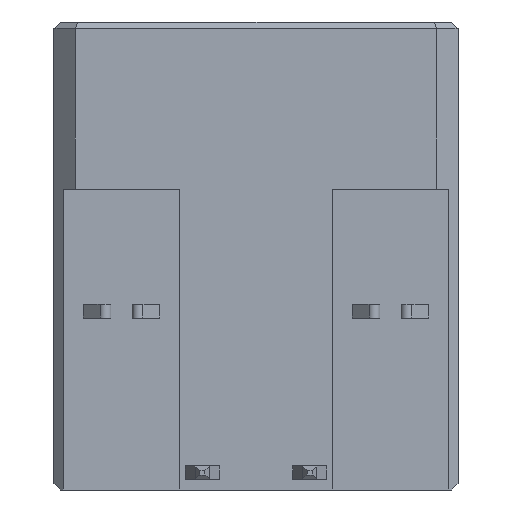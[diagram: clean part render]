
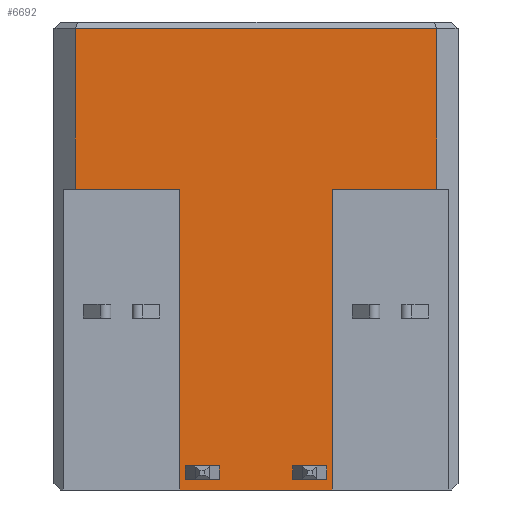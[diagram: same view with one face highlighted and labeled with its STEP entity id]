
A CAD part, front view. The second image highlights one B-rep face of the part: STEP entity #6692.
In plain terms, the highlighted planar face has unit normal (0, -1, 0).
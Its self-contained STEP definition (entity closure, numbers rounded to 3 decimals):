
#6 = VERTEX_POINT ( 'NONE', #611 ) ;
#98 = LINE ( 'NONE', #3549, #8408 ) ;
#246 = CARTESIAN_POINT ( 'NONE',  ( 8.54, -4.5, -22.1 ) ) ;
#251 = EDGE_CURVE ( 'NONE', #14040, #9544, #873, .T. ) ;
#362 = CARTESIAN_POINT ( 'NONE',  ( -9.54, -4.5, -22.1 ) ) ;
#364 = AXIS2_PLACEMENT_3D ( 'NONE', #1907, #775, #10448 ) ;
#367 = VECTOR ( 'NONE', #3530, 1000. ) ;
#507 = EDGE_CURVE ( 'NONE', #7620, #7159, #9347, .T. ) ;
#528 = CARTESIAN_POINT ( 'NONE',  ( 3.35, -4.5, -21.6 ) ) ;
#600 = FACE_BOUND ( 'NONE', #2453, .T. ) ;
#611 = CARTESIAN_POINT ( 'NONE',  ( -3.35, -4.5, -21.6 ) ) ;
#692 = EDGE_CURVE ( 'NONE', #9544, #7159, #7641, .T. ) ;
#775 = DIRECTION ( 'NONE',  ( 0., -1., 0. ) ) ;
#873 = LINE ( 'NONE', #1937, #1035 ) ;
#913 = CARTESIAN_POINT ( 'NONE',  ( -9.54, -4.5, -7.9 ) ) ;
#1035 = VECTOR ( 'NONE', #10775, 1000. ) ;
#1116 = EDGE_CURVE ( 'NONE', #13094, #13755, #9328, .T. ) ;
#1336 = DIRECTION ( 'NONE',  ( 0., 0., 1. ) ) ;
#1394 = VECTOR ( 'NONE', #1336, 1000. ) ;
#1543 = CARTESIAN_POINT ( 'NONE',  ( -8.54, -4.5, -7.9 ) ) ;
#1653 = LINE ( 'NONE', #9124, #10312 ) ;
#1687 = ORIENTED_EDGE ( 'NONE', *, *, #507, .F. ) ;
#1714 = LINE ( 'NONE', #5412, #10209 ) ;
#1735 = VERTEX_POINT ( 'NONE', #3378 ) ;
#1880 = CARTESIAN_POINT ( 'NONE',  ( 3.6, -4.5, -7.9 ) ) ;
#1907 = CARTESIAN_POINT ( 'NONE',  ( -9.54, -4.5, -22.1 ) ) ;
#1937 = CARTESIAN_POINT ( 'NONE',  ( -3.6, -4.5, -22.1 ) ) ;
#1988 = DIRECTION ( 'NONE',  ( -1., 0., 0. ) ) ;
#2004 = DIRECTION ( 'NONE',  ( 0., 0., 1. ) ) ;
#2048 = VECTOR ( 'NONE', #7569, 1000. ) ;
#2100 = CARTESIAN_POINT ( 'NONE',  ( -9.54, -4.5, -7.9 ) ) ;
#2116 = CARTESIAN_POINT ( 'NONE',  ( -3.35, -4.5, -25.446 ) ) ;
#2381 = VERTEX_POINT ( 'NONE', #7634 ) ;
#2453 = EDGE_LOOP ( 'NONE', ( #3965, #5721, #13725, #5637 ) ) ;
#2686 = CARTESIAN_POINT ( 'NONE',  ( -1.73, -4.5, -20.96 ) ) ;
#2690 = CARTESIAN_POINT ( 'NONE',  ( 3.6, -4.5, -22.1 ) ) ;
#2739 = LINE ( 'NONE', #246, #1394 ) ;
#2830 = CARTESIAN_POINT ( 'NONE',  ( -3.35, -4.5, -20.96 ) ) ;
#2846 = PLANE ( 'NONE',  #364 ) ;
#2878 = VECTOR ( 'NONE', #5126, 1000. ) ;
#3072 = LINE ( 'NONE', #2116, #2048 ) ;
#3247 = CARTESIAN_POINT ( 'NONE',  ( -9.54, -4.5, -0.3 ) ) ;
#3378 = CARTESIAN_POINT ( 'NONE',  ( 1.73, -4.5, -21.6 ) ) ;
#3530 = DIRECTION ( 'NONE',  ( 0., 0., -1. ) ) ;
#3549 = CARTESIAN_POINT ( 'NONE',  ( -2.54, -4.5, -20.96 ) ) ;
#3577 = VECTOR ( 'NONE', #7854, 1000. ) ;
#3630 = ORIENTED_EDGE ( 'NONE', *, *, #4757, .T. ) ;
#3640 = LINE ( 'NONE', #3247, #4493 ) ;
#3740 = VECTOR ( 'NONE', #7449, 1000. ) ;
#3874 = VECTOR ( 'NONE', #12034, 1000. ) ;
#3952 = VECTOR ( 'NONE', #2004, 1000. ) ;
#3965 = ORIENTED_EDGE ( 'NONE', *, *, #1116, .F. ) ;
#3980 = ORIENTED_EDGE ( 'NONE', *, *, #692, .T. ) ;
#4022 = EDGE_CURVE ( 'NONE', #8579, #1735, #8444, .T. ) ;
#4388 = DIRECTION ( 'NONE',  ( -1., 0., 0. ) ) ;
#4441 = VECTOR ( 'NONE', #1988, 1000. ) ;
#4493 = VECTOR ( 'NONE', #4388, 1000. ) ;
#4511 = ORIENTED_EDGE ( 'NONE', *, *, #4022, .F. ) ;
#4663 = CARTESIAN_POINT ( 'NONE',  ( -3.6, -4.5, -22.1 ) ) ;
#4757 = EDGE_CURVE ( 'NONE', #13802, #1735, #1653, .T. ) ;
#5126 = DIRECTION ( 'NONE',  ( 1., 0., 0. ) ) ;
#5184 = CARTESIAN_POINT ( 'NONE',  ( -1.73, -4.5, -21.6 ) ) ;
#5412 = CARTESIAN_POINT ( 'NONE',  ( 2.54, -4.5, -20.96 ) ) ;
#5560 = CARTESIAN_POINT ( 'NONE',  ( 1.73, -4.5, -25.446 ) ) ;
#5637 = ORIENTED_EDGE ( 'NONE', *, *, #5843, .F. ) ;
#5640 = CARTESIAN_POINT ( 'NONE',  ( 3.6, -4.5, -22.1 ) ) ;
#5721 = ORIENTED_EDGE ( 'NONE', *, *, #9381, .T. ) ;
#5843 = EDGE_CURVE ( 'NONE', #13755, #7203, #98, .T. ) ;
#6385 = CARTESIAN_POINT ( 'NONE',  ( 3.35, -4.5, -19.79 ) ) ;
#6473 = VECTOR ( 'NONE', #7410, 1000. ) ;
#6510 = DIRECTION ( 'NONE',  ( -1., 0., 0. ) ) ;
#6529 = FACE_BOUND ( 'NONE', #8506, .T. ) ;
#6692 = ADVANCED_FACE ( 'NONE', ( #11470, #600, #6529 ), #2846, .T. ) ;
#6867 = VECTOR ( 'NONE', #9747, 1000. ) ;
#7084 = ORIENTED_EDGE ( 'NONE', *, *, #9115, .T. ) ;
#7159 = VERTEX_POINT ( 'NONE', #2690 ) ;
#7203 = VERTEX_POINT ( 'NONE', #2830 ) ;
#7410 = DIRECTION ( 'NONE',  ( 1., 0., 0. ) ) ;
#7449 = DIRECTION ( 'NONE',  ( 0., 0., 1. ) ) ;
#7497 = ORIENTED_EDGE ( 'NONE', *, *, #9288, .T. ) ;
#7569 = DIRECTION ( 'NONE',  ( 0., 0., -1. ) ) ;
#7620 = VERTEX_POINT ( 'NONE', #1880 ) ;
#7634 = CARTESIAN_POINT ( 'NONE',  ( 8.54, -4.5, -7.9 ) ) ;
#7641 = LINE ( 'NONE', #362, #2878 ) ;
#7712 = ORIENTED_EDGE ( 'NONE', *, *, #8229, .T. ) ;
#7854 = DIRECTION ( 'NONE',  ( 0., 0., -1. ) ) ;
#7946 = DIRECTION ( 'NONE',  ( -1., 0., 0. ) ) ;
#8206 = ORIENTED_EDGE ( 'NONE', *, *, #11597, .F. ) ;
#8229 = EDGE_CURVE ( 'NONE', #2381, #14126, #2739, .T. ) ;
#8240 = CARTESIAN_POINT ( 'NONE',  ( 3.35, -4.5, -20.96 ) ) ;
#8408 = VECTOR ( 'NONE', #7946, 1000. ) ;
#8444 = LINE ( 'NONE', #5560, #3874 ) ;
#8506 = EDGE_LOOP ( 'NONE', ( #8997, #3630, #4511, #8206 ) ) ;
#8579 = VERTEX_POINT ( 'NONE', #13268 ) ;
#8602 = EDGE_CURVE ( 'NONE', #13981, #8921, #10736, .T. ) ;
#8726 = EDGE_CURVE ( 'NONE', #7203, #6, #3072, .T. ) ;
#8812 = ORIENTED_EDGE ( 'NONE', *, *, #8602, .T. ) ;
#8921 = VERTEX_POINT ( 'NONE', #1543 ) ;
#8997 = ORIENTED_EDGE ( 'NONE', *, *, #10653, .F. ) ;
#9075 = LINE ( 'NONE', #13141, #6867 ) ;
#9076 = DIRECTION ( 'NONE',  ( -1., 0., 0. ) ) ;
#9115 = EDGE_CURVE ( 'NONE', #8921, #14040, #9354, .T. ) ;
#9124 = CARTESIAN_POINT ( 'NONE',  ( 2.54, -4.5, -21.6 ) ) ;
#9288 = EDGE_CURVE ( 'NONE', #14126, #13981, #3640, .T. ) ;
#9328 = LINE ( 'NONE', #14106, #3740 ) ;
#9347 = LINE ( 'NONE', #5640, #3577 ) ;
#9354 = LINE ( 'NONE', #2100, #6473 ) ;
#9381 = EDGE_CURVE ( 'NONE', #13094, #6, #9075, .T. ) ;
#9544 = VERTEX_POINT ( 'NONE', #4663 ) ;
#9664 = ORIENTED_EDGE ( 'NONE', *, *, #11562, .F. ) ;
#9715 = CARTESIAN_POINT ( 'NONE',  ( -3.6, -4.5, -7.9 ) ) ;
#9747 = DIRECTION ( 'NONE',  ( -1., 0., 0. ) ) ;
#9900 = CARTESIAN_POINT ( 'NONE',  ( 8.54, -4.5, -0.3 ) ) ;
#10209 = VECTOR ( 'NONE', #6510, 1000. ) ;
#10230 = ORIENTED_EDGE ( 'NONE', *, *, #251, .T. ) ;
#10312 = VECTOR ( 'NONE', #9076, 1000. ) ;
#10398 = LINE ( 'NONE', #6385, #3952 ) ;
#10448 = DIRECTION ( 'NONE',  ( 1., 0., 0. ) ) ;
#10653 = EDGE_CURVE ( 'NONE', #13802, #12002, #10398, .T. ) ;
#10736 = LINE ( 'NONE', #12188, #367 ) ;
#10775 = DIRECTION ( 'NONE',  ( 0., 0., -1. ) ) ;
#10896 = CARTESIAN_POINT ( 'NONE',  ( -8.54, -4.5, -0.3 ) ) ;
#11470 = FACE_OUTER_BOUND ( 'NONE', #13561, .T. ) ;
#11562 = EDGE_CURVE ( 'NONE', #2381, #7620, #13820, .T. ) ;
#11597 = EDGE_CURVE ( 'NONE', #12002, #8579, #1714, .T. ) ;
#12002 = VERTEX_POINT ( 'NONE', #8240 ) ;
#12034 = DIRECTION ( 'NONE',  ( 0., 0., -1. ) ) ;
#12188 = CARTESIAN_POINT ( 'NONE',  ( -8.54, -4.5, -22.1 ) ) ;
#13094 = VERTEX_POINT ( 'NONE', #5184 ) ;
#13141 = CARTESIAN_POINT ( 'NONE',  ( -2.54, -4.5, -21.6 ) ) ;
#13268 = CARTESIAN_POINT ( 'NONE',  ( 1.73, -4.5, -20.96 ) ) ;
#13561 = EDGE_LOOP ( 'NONE', ( #3980, #1687, #9664, #7712, #7497, #8812, #7084, #10230 ) ) ;
#13725 = ORIENTED_EDGE ( 'NONE', *, *, #8726, .F. ) ;
#13755 = VERTEX_POINT ( 'NONE', #2686 ) ;
#13802 = VERTEX_POINT ( 'NONE', #528 ) ;
#13820 = LINE ( 'NONE', #913, #4441 ) ;
#13981 = VERTEX_POINT ( 'NONE', #10896 ) ;
#14040 = VERTEX_POINT ( 'NONE', #9715 ) ;
#14106 = CARTESIAN_POINT ( 'NONE',  ( -1.73, -4.5, -19.79 ) ) ;
#14126 = VERTEX_POINT ( 'NONE', #9900 ) ;
